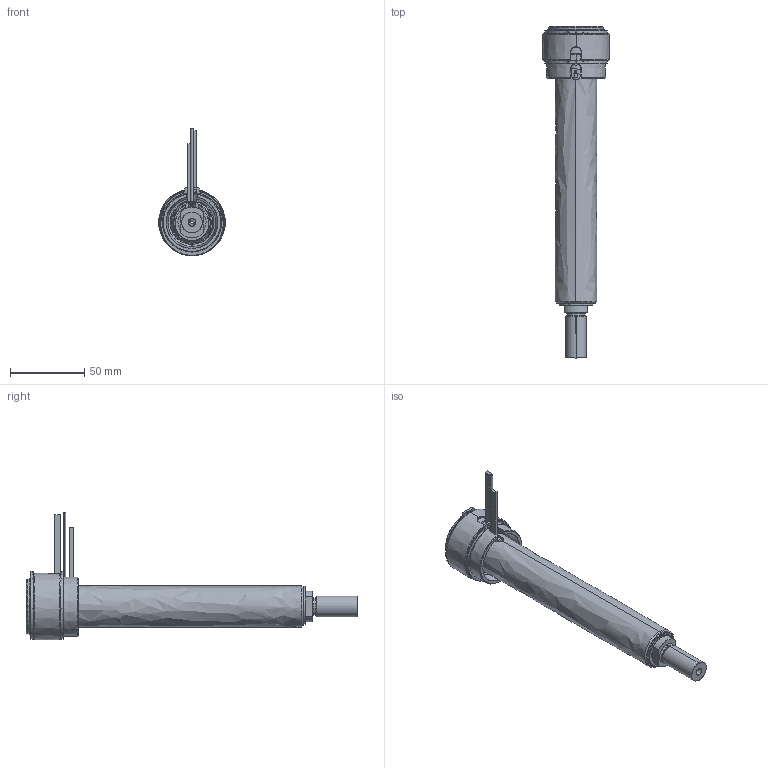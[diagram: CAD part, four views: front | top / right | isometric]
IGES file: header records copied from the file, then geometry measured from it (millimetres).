
Start section: SolidWorks IGES file using analytic representation for surfaces
Global section: file name: C:\Documents and Settings\ws-20\Desktop\TEM\UGBE4504-M-A-P-3 [Ød-2.0 P-25 ØC-10].IGS; native system: SolidWorks 2012; preprocessor: SolidWorks 2012; author: ws-20; date: 120412.154832; units: millimetre
Bounding box: 45 x 224.25 x 86.15 mm (x, y, z)
Surface area: 69362.9 mm2 (no closed solid volume)
Topology: 0 solids, 0 shells, 160 faces, 2995 edges, 2995 vertices
Faces by surface type: revolution 98, bspline 62
